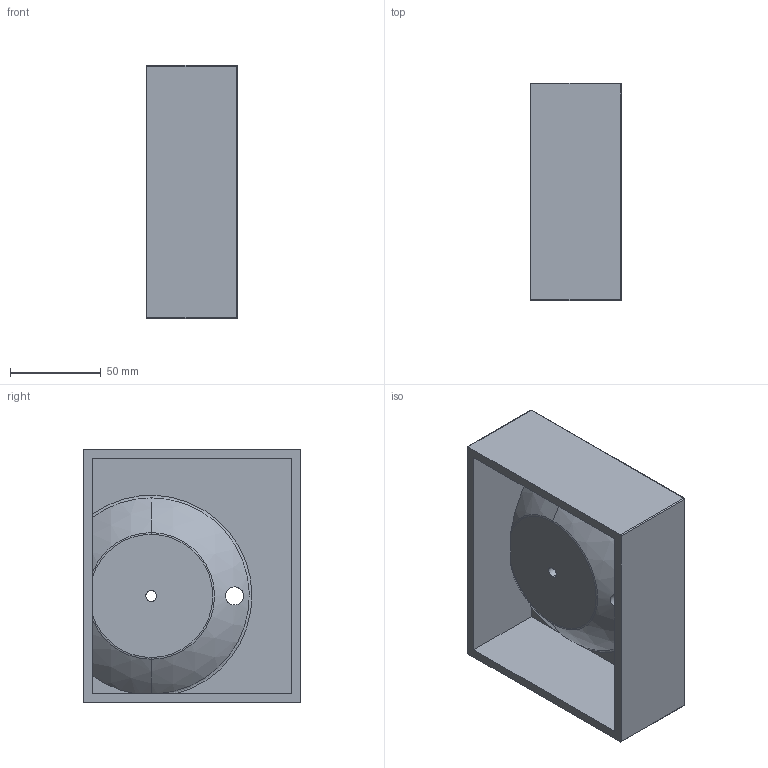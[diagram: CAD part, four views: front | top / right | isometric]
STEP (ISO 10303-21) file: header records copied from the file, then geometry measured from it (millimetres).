
FILE_DESCRIPTION (( 'STEP AP214' ), '1' );
FILE_NAME ('Support 1.STEP', '2016-07-07T12:28:42', ( '' ), ( '' ), 'SwSTEP 2.0', 'SolidWorks 2010', '' );
FILE_SCHEMA (( 'AUTOMOTIVE_DESIGN' ));
Length unit declared in the file: millimetre
Products named in the file (1): Support 1
Bounding box: 50 x 120 x 140 mm (x, y, z)
Volume: 198096.3 mm3; surface area: 81934 mm2
Topology: 1 solids, 1 shells, 49 faces, 118 edges, 66 vertices
Faces by surface type: plane 14, cylinder 13, sphere 13, torus 9
Entity records: 1581 total; most frequent: CARTESIAN_POINT 402, DIRECTION 267, ORIENTED_EDGE 224, AXIS2_PLACEMENT_3D 113, EDGE_CURVE 112, VERTEX_POINT 66, CIRCLE 63, EDGE_LOOP 54
